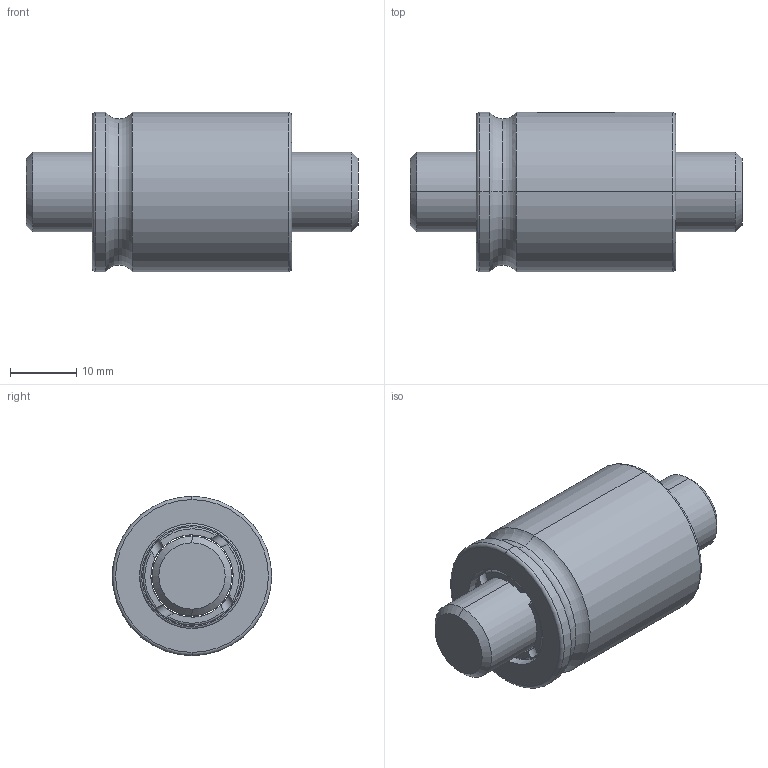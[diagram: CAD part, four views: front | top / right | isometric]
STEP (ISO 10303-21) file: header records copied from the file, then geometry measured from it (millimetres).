
FILE_DESCRIPTION (( 'STEP AP203' ), '1' );
FILE_NAME ('SCIR01202T3-C.STEP', '2020-06-17T07:12:37', ( '' ), ( '' ), 'SwSTEP 2.0', 'SolidWorks 2013', '' );
FILE_SCHEMA (( 'CONFIG_CONTROL_DESIGN' ));
Length unit declared in the file: millimetre
Products named in the file (1): SCIR01202T3-C
Bounding box: 50 x 24 x 24 mm (x, y, z)
Volume: 14729.4 mm3; surface area: 6722.1 mm2
Topology: 2 solids, 3 shells, 97 faces, 241 edges, 150 vertices
Faces by surface type: cylinder 44, torus 28, plane 21, cone 4
Entity records: 3497 total; most frequent: CARTESIAN_POINT 1113, DIRECTION 502, ORIENTED_EDGE 482, EDGE_CURVE 241, AXIS2_PLACEMENT_3D 223, VERTEX_POINT 150, CIRCLE 125, EDGE_LOOP 105
